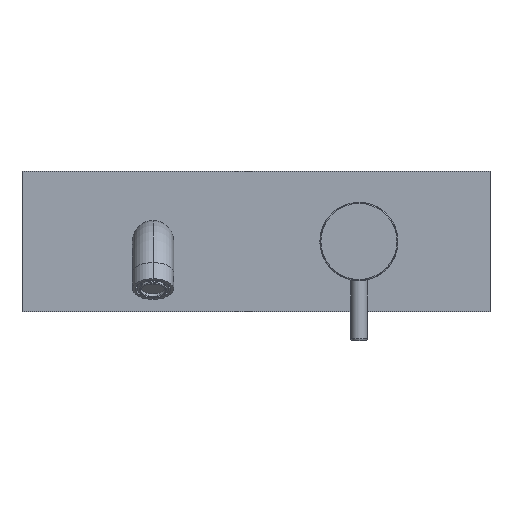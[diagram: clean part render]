
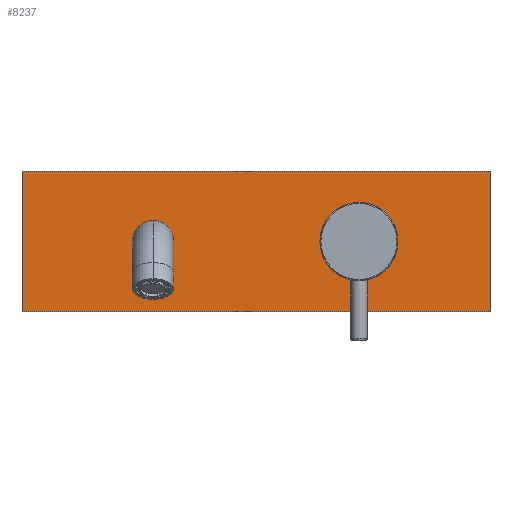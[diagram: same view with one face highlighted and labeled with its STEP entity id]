
A CAD part, top view. The second image highlights one B-rep face of the part: STEP entity #8237.
In plain terms, the highlighted planar face has unit normal (0, 0, 1).
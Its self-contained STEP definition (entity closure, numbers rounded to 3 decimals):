
#4010=DIRECTION('',(0.,-1.,0.));
#4011=VECTOR('',#4010,75.);
#4012=CARTESIAN_POINT('',(-182.,37.5,45.7));
#4013=LINE('',#4012,#4011);
#4014=DIRECTION('',(-1.,0.,0.));
#4015=VECTOR('',#4014,250.);
#4016=CARTESIAN_POINT('',(68.,37.5,45.7));
#4017=LINE('',#4016,#4015);
#4018=DIRECTION('',(0.,1.,0.));
#4019=VECTOR('',#4018,75.);
#4020=CARTESIAN_POINT('',(68.,-37.5,45.7));
#4021=LINE('',#4020,#4019);
#4022=DIRECTION('',(1.,0.,0.));
#4023=VECTOR('',#4022,250.);
#4024=CARTESIAN_POINT('',(-182.,-37.5,45.7));
#4025=LINE('',#4024,#4023);
#4026=CARTESIAN_POINT('',(-2.,0.,45.7));
#4027=DIRECTION('',(0.,0.,1.));
#4028=DIRECTION('',(1.,0.,0.));
#4029=AXIS2_PLACEMENT_3D('',#4026,#4027,#4028);
#4031=CARTESIAN_POINT('',(-2.,0.,45.7));
#4032=DIRECTION('',(0.,0.,1.));
#4033=DIRECTION('',(-1.,0.,0.));
#4034=AXIS2_PLACEMENT_3D('',#4031,#4032,#4033);
#4036=CARTESIAN_POINT('',(-112.,0.,45.7));
#4037=DIRECTION('',(0.,0.,1.));
#4038=DIRECTION('',(0.,1.,0.));
#4039=AXIS2_PLACEMENT_3D('',#4036,#4037,#4038);
#4041=CARTESIAN_POINT('',(-112.,0.,45.7));
#4042=DIRECTION('',(0.,0.,1.));
#4043=DIRECTION('',(0.,-1.,0.));
#4044=AXIS2_PLACEMENT_3D('',#4041,#4042,#4043);
#5744=CARTESIAN_POINT('',(-182.,-37.5,45.7));
#5745=CARTESIAN_POINT('',(68.,-37.5,45.7));
#5746=VERTEX_POINT('',#5744);
#5747=VERTEX_POINT('',#5745);
#5748=CARTESIAN_POINT('',(68.,37.5,45.7));
#5749=CARTESIAN_POINT('',(-182.,37.5,45.7));
#5750=VERTEX_POINT('',#5748);
#5751=VERTEX_POINT('',#5749);
#5760=CARTESIAN_POINT('',(18.25,0.,45.7));
#5761=CARTESIAN_POINT('',(-22.25,0.,45.7));
#5762=VERTEX_POINT('',#5760);
#5763=VERTEX_POINT('',#5761);
#5892=CARTESIAN_POINT('',(-112.,11.,45.7));
#5893=CARTESIAN_POINT('',(-112.,-11.,45.7));
#5894=VERTEX_POINT('',#5892);
#5895=VERTEX_POINT('',#5893);
#8211=CARTESIAN_POINT('',(-57.,0.,45.7));
#8212=DIRECTION('',(0.,0.,1.));
#8213=DIRECTION('',(1.,0.,0.));
#8214=AXIS2_PLACEMENT_3D('',#8211,#8212,#8213);
#8215=PLANE('',#8214);
#8217=ORIENTED_EDGE('',*,*,#8216,.F.);
#8219=ORIENTED_EDGE('',*,*,#8218,.F.);
#8221=ORIENTED_EDGE('',*,*,#8220,.F.);
#8223=ORIENTED_EDGE('',*,*,#8222,.F.);
#8224=EDGE_LOOP('',(#8217,#8219,#8221,#8223));
#8225=FACE_OUTER_BOUND('',#8224,.F.);
#8227=ORIENTED_EDGE('',*,*,#8226,.T.);
#8229=ORIENTED_EDGE('',*,*,#8228,.T.);
#8230=EDGE_LOOP('',(#8227,#8229));
#8231=FACE_BOUND('',#8230,.F.);
#8233=ORIENTED_EDGE('',*,*,#8232,.T.);
#8234=ORIENTED_EDGE('',*,*,#8197,.T.);
#8235=EDGE_LOOP('',(#8233,#8234));
#8236=FACE_BOUND('',#8235,.F.);
#8237=ADVANCED_FACE('',(#8225,#8231,#8236),#8215,.T.);
#4030=CIRCLE('',#4029,20.25);
#4035=CIRCLE('',#4034,20.25);
#4040=CIRCLE('',#4039,11.);
#4045=CIRCLE('',#4044,11.);
#8197=EDGE_CURVE('',#5895,#5894,#4045,.T.);
#8216=EDGE_CURVE('',#5751,#5746,#4013,.T.);
#8218=EDGE_CURVE('',#5750,#5751,#4017,.T.);
#8220=EDGE_CURVE('',#5747,#5750,#4021,.T.);
#8222=EDGE_CURVE('',#5746,#5747,#4025,.T.);
#8226=EDGE_CURVE('',#5762,#5763,#4030,.T.);
#8228=EDGE_CURVE('',#5763,#5762,#4035,.T.);
#8232=EDGE_CURVE('',#5894,#5895,#4040,.T.);
